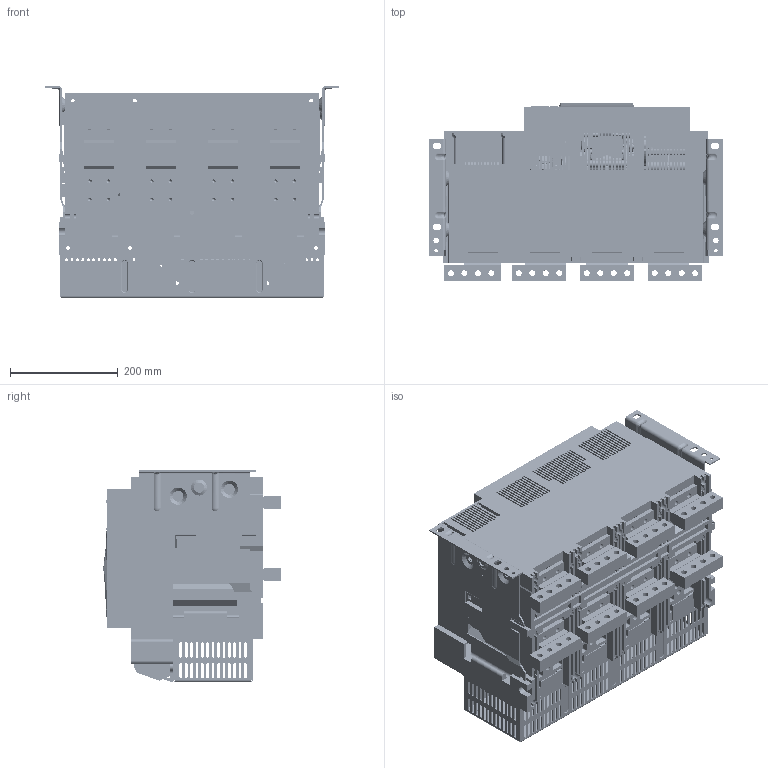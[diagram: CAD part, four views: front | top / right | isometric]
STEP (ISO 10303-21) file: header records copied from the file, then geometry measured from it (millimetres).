
FILE_DESCRIPTION((''),'2;1');
FILE_NAME('NA8G-4000-4000-4P-F-SC_ASM','2020-01-15T17:05:37',('lcc'),(''),'CREO PARAMETRIC BY PTC INC, 2018020','CREO PARAMETRIC BY PTC INC, 2018020','');
FILE_SCHEMA(('CONFIG_CONTROL_DESIGN','SHAPE_APPEARANCE_LAYERS_GROUPS'));
Products named in the file (188): 5ZTD-024-176; 5024A0203010; 8ZTD-060-A003-201804; 8ZTD-062-A004-201804; 8ZTD-557-597; 8580A0412010; 8580A0412011; 8580A0412009; 4P-8300A0306006-3200A; 8050A0306009; 8940A0310001; 5050A1527001_ASM; 8206A0312073; 8206A0312079; 8206A0312063; 8206A0312080; 8206A0312067; 8206A0312074; 8206A0312072; 8206A0312061; 8206A0312069; 5050A1516007_ASM; 8231A0306002; 8441A0101005; 8860A1424011; 5441A1526003_ASM; GBT896-3; GBT896-6; 8288A0820028_AF0; 8288A0820030_AF0; 5050A1526007_ASM; 8050A0307001; 8206A0312082; 8206A0312075; 5050A1516008_ASM; 8441A0101006; 8860A1424010; 5441A1526004_ASM; 8206A0312078; 8235A0306002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
Assembly tree (316 placements, depth 6):
  NA8G-4000-4000-4P-F-SC_ASM
    5ZTD-024-176
    5024A0203010
    8ZTD-060-A003-201804
    8ZTD-062-A004-201804
    8ZTD-557-597  x4
    8580A0412010  x2
    8580A0412011  x4
    8580A0412009  x2
    4P-8300A0306006-3200A
    NA8G-4000-4P-JG_ASM
      5050A1526007_ASM
        5050A1516007_ASM
          5050A1527001_ASM
            8050A0306009
            8940A0310001
          8206A0312073  x3
          8206A0312079
          8206A0312063
          8206A0312080  x2
          8206A0312067
          8206A0312074  x2
          8206A0312072
          8206A0312061
          8206A0312069
        8231A0306002
        5441A1526003_ASM
          8441A0101005
          8860A1424011
        GBT896-3
        GBT896-6
        8288A0820028_AF0
        8288A0820030_AF0
      5050A1526008_ASM
        5050A1516008_ASM
          8050A0307001
          8206A0312082
          8206A0312073  x3
          8206A0312069
          8206A0312075
        5441A1526004_ASM
          8441A0101006
          8860A1424010
        8206A0312078  x2
        8235A0306002
        GBT93-3  x2
        GBT6170-M3  x2
        GBT896-2
        GBT896-3  x2
        GBT896-4  x2
        8288A0820030_AF1
        8288A0820030_AF2
        8288A0820024_AF0
        8288A0820025_AF0
      8206A0312066
      5263A1526005_ASM
        8263A0312002
        8210A0411007
      5263A1526004_ASM
        8263A0312001
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Bounding box: 545 x 329.53 x 392 mm (x, y, z)
Volume: 11142345.8 mm3; surface area: 4769638.9 mm2
Topology: 517 solids, 667 shells, 31548 faces, 84625 edges, 55297 vertices
Faces by surface type: plane 20453, cylinder 7296, cone 1675, bspline 1401, torus 601, sphere 106, extrusion 16
Entity records: 579680 total; most frequent: CARTESIAN_POINT 143593, ORIENTED_EDGE 70759, DIRECTION 69551, EDGE_CURVE 35483, PRESENTATION_STYLE_ASSIGNMENT 30020, STYLED_ITEM 29626, CURVE_STYLE 29409, VECTOR 26151
